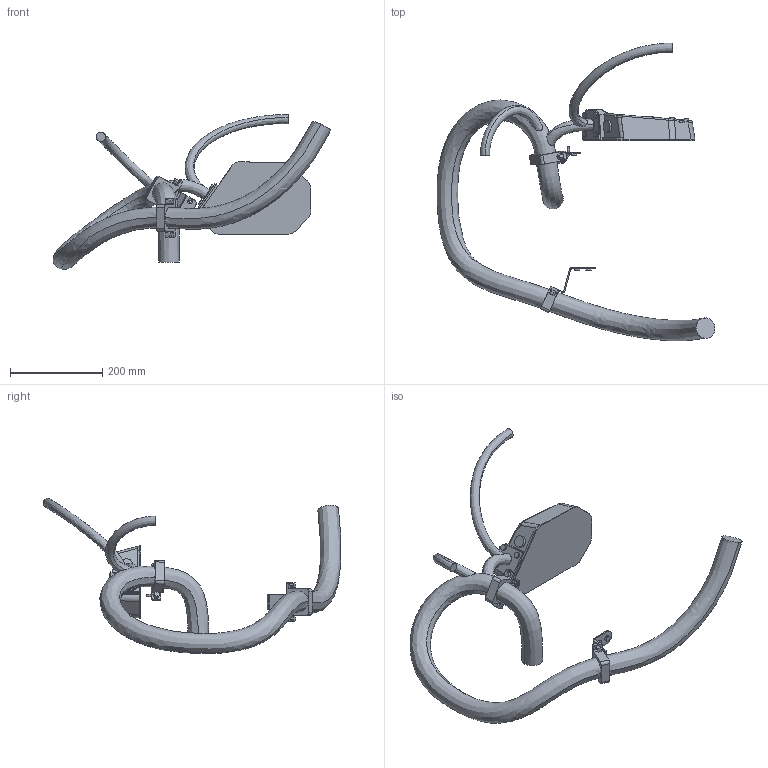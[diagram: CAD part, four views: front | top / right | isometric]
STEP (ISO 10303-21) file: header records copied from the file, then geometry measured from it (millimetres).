
FILE_DESCRIPTION (( 'STEP AP214' ), '1' );
FILE_NAME ('IRB5720-LID_90kg-300_OmniCore_rev00_LINK01m_CABLE.step', '2025-07-08T10:55:54', ( '' ), ( '' ), 'SwSTEP 2.0', 'SolidWorks 2024', '' );
FILE_SCHEMA (( 'AUTOMOTIVE_DESIGN' ));
Length unit declared in the file: millimetre
Products named in the file (1): IRB5720-LID_90kg-300_OmniCore_rev00_LINK01m_CABLE
Bounding box: 602.68 x 645.44 x 336.34 mm (x, y, z)
Volume: 4149487.8 mm3; surface area: 377540.3 mm2
Topology: 1 solids, 7 shells, 428 faces, 1067 edges, 693 vertices
Faces by surface type: plane 223, cylinder 127, bspline 44, cone 20, torus 14
Entity records: 26542 total; most frequent: CARTESIAN_POINT 16410, ORIENTED_EDGE 2134, DIRECTION 1930, EDGE_CURVE 1067, VERTEX_POINT 693, AXIS2_PLACEMENT_3D 667, LINE 596, VECTOR 596
